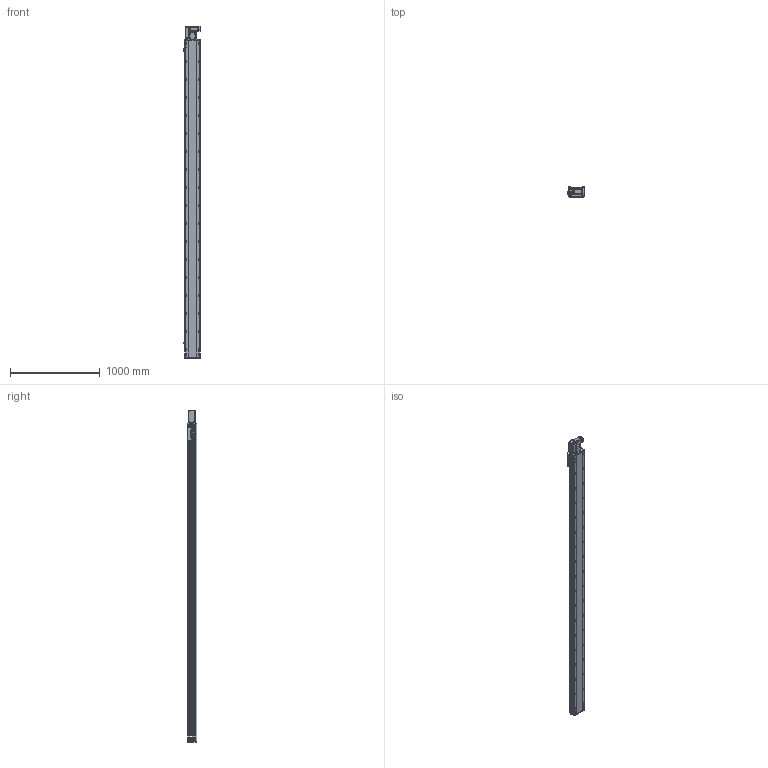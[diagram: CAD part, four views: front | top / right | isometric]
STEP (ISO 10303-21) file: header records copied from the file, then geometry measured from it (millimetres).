
FILE_DESCRIPTION (( 'STEP AP214' ), '1' );
FILE_NAME ('RTB17S-XX-3250-L-M40-C4.STEP', '2025-12-11T06:06:53', ( '' ), ( '' ), 'SwSTEP 2.0', 'SolidWorks 2018', '' );
FILE_SCHEMA (( 'AUTOMOTIVE_DESIGN' ));
Length unit declared in the file: millimetre
Products named in the file (14): RMP17S-L-014-T20--々湍釱^RTB17S-L-々湍釱蚾饜-400W_RTB17S-XX-XX-L-M40-C4; RTB17S-L-007奻裔^RTB17S-XX-XX-L-M40-C4; RTB17-R-011菁釱^RTB17S-XX-XX-L-M40-C4; RTH13-BL-012覜茼え俋离^RTB17S-XX-XX-L-M40-C4; RTB17S-XX-3250-L-M40-C4; RTB14-L-018P^RTB17S-L-々湍釱蚾饜-400W_RTB17S-XX-XX-L-M40-C4; RTB17S-L-004佪裝蹟譫蟀諉釱^RTB17S-XX-XX-L-M40-C4; RTB17S-L-々湍釱蚾饜-400W^RTB17S-XX-XX-L-M40-C4; RTB14-L-017P^RTB17S-L-々湍釱蚾饜-400W_RTB17S-XX-XX-L-M40-C4; RTB14-L-005P--轴承塑胶压盖^RTB17S-L-皮带座装配-400W_RTB17S-XX-XX-L-M40-C4; 400W侜督萇儂^RTB17S-XX-XX-L-M40-C4; RTB17S-L-001耜醱啣^RTB17S-XX-XX-L-M40-C4; OMRON EE-SX672 传感器^RTB17S-XX-XX-L-M40-C4; RTB14-L-008-M20--萇儂啣^RTB17S-L-々湍釱蚾饜-400W_RTB17S-XX-XX-L-M40-C4
Assembly tree (16 placements, depth 3):
  RTB17S-XX-3250-L-M40-C4
    RTB17-R-011菁釱^RTB17S-XX-XX-L-M40-C4
    RTB17S-L-007奻裔^RTB17S-XX-XX-L-M40-C4
    OMRON EE-SX672 传感器^RTB17S-XX-XX-L-M40-C4  x3
    RTB17S-L-001耜醱啣^RTB17S-XX-XX-L-M40-C4
    400W侜督萇儂^RTB17S-XX-XX-L-M40-C4
    RTB17S-L-004佪裝蹟譫蟀諉釱^RTB17S-XX-XX-L-M40-C4
    RTH13-BL-012覜茼え俋离^RTB17S-XX-XX-L-M40-C4
    RTB17S-L-々湍釱蚾饜-400W^RTB17S-XX-XX-L-M40-C4
      RMP17S-L-014-T20--々湍釱^RTB17S-L-々湍釱蚾饜-400W_RTB17S-XX-XX-L-M40-C4
      RTB14-L-005P--轴承塑胶压盖^RTB17S-L-皮带座装配-400W_RTB17S-XX-XX-L-M40-C4
      RTB14-L-008-M20--萇儂啣^RTB17S-L-々湍釱蚾饜-400W_RTB17S-XX-XX-L-M40-C4
      RTB14-L-017P^RTB17S-L-々湍釱蚾饜-400W_RTB17S-XX-XX-L-M40-C4  x2
      RTB14-L-018P^RTB17S-L-々湍釱蚾饜-400W_RTB17S-XX-XX-L-M40-C4
Bounding box: 186 x 108 x 3691 mm (x, y, z)
Volume: 30717658.7 mm3; surface area: 3500769.1 mm2
Topology: 15 solids, 15 shells, 2397 faces, 6735 edges, 4401 vertices
Faces by surface type: plane 1092, cylinder 857, bspline 301, cone 139, torus 8
Entity records: 71849 total; most frequent: CARTESIAN_POINT 20540, ORIENTED_EDGE 10314, DIRECTION 9476, EDGE_CURVE 5157, VERTEX_POINT 3389, AXIS2_PLACEMENT_3D 3319, VECTOR 2838, LINE 2838
